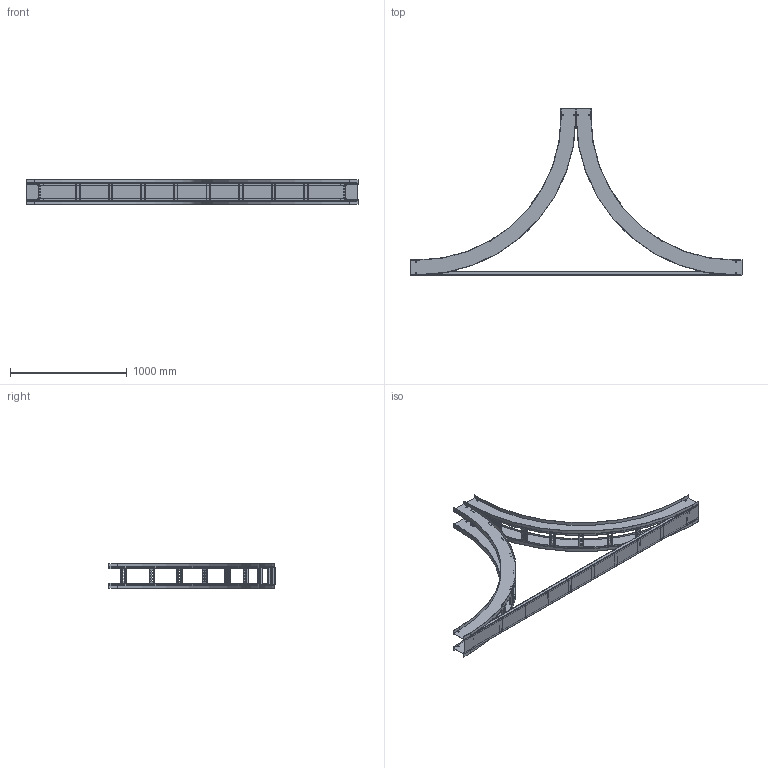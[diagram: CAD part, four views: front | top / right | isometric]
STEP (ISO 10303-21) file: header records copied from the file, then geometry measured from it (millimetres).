
FILE_DESCRIPTION((''),'2;1');
FILE_NAME('AHF506SVTU48_ASM','2010-01-27T',('erouzier'),(''),'PRO/ENGINEER BY PARAMETRIC TECHNOLOGY CORPORATION, 2008510','PRO/ENGINEER BY PARAMETRIC TECHNOLOGY CORPORATION, 2008510','');
FILE_SCHEMA(('CONFIG_CONTROL_DESIGN'));
Length unit declared in the file: inch
Products named in the file (8): CDS001658_5_90_48; CDS002159L6-P; AHF506LVI9048_ASM; CDS000495_GEN_AF6; CDS000495_GEN_AF7; CDS002159L6; CDS015035_5_6_48; AHF506SVTU48_ASM
Assembly tree (24 placements, depth 3):
  AHF506SVTU48_ASM
    AHF506LVI9048_ASM  x2
      CDS001658_5_90_48
      CDS002159L6-P
    CDS000495_GEN_AF6
    CDS000495_GEN_AF7
    CDS002159L6  x8
    CDS015035_5_6_48
Bounding box: 2848.86 x 1426.34 x 213.61 mm (x, y, z)
Volume: 5603965.9 mm3; surface area: 6170866.8 mm2
Topology: 33 solids, 33 shells, 1550 faces, 4452 edges, 2968 vertices
Faces by surface type: plane 948, cylinder 602
Entity records: 5532 total; most frequent: DIRECTION 954, CARTESIAN_POINT 943, ORIENTED_EDGE 888, EDGE_CURVE 444, VECTOR 340, LINE 340, AXIS2_PLACEMENT_3D 307, VERTEX_POINT 296
